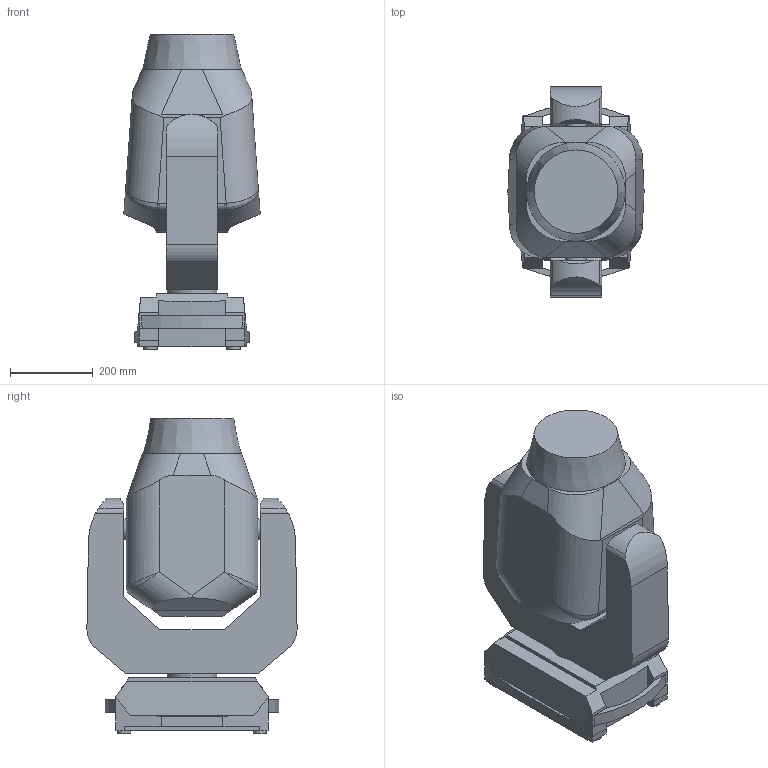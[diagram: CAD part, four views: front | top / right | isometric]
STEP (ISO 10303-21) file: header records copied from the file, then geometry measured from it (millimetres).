
FILE_DESCRIPTION(/* description */ ('Unknown'),/* implementation_level */ '2;1');
FILE_NAME(/* name */ '3D_iPointe_ZERO',/* time_stamp */ '2019-08-27T10:23:21+02:00',/* author */ ('Ing.Rostislav HĂˇba'),/* organization */ ('ROBE lighting'),/* preprocessor_version */ 'ST-DEVELOPER v16.7',/* originating_system */ 'DEX',/* authorisation */ $);
FILE_SCHEMA (('CONFIG_CONTROL_DESIGN'));
Length unit declared in the file: millimetre
Products named in the file (4): 3D_iPointe; Base iPointe; Arm iPointe; Head iPointe
Assembly tree (3 placements, depth 2):
  3D_iPointe
    Base iPointe
    Arm iPointe
    Head iPointe
Bounding box: 328.48 x 506.67 x 761.36 mm (x, y, z)
Volume: 59686930.9 mm3; surface area: 1459254.5 mm2
Topology: 3 solids, 3 shells, 143 faces, 381 edges, 250 vertices
Faces by surface type: plane 82, cylinder 52, bspline 8, cone 1
Full cylindrical faces by diameter (mm): 12 x4, 22 x1, 31.841 x4, 49.57 x2, 74 x1, 95 x1, 120.126 x1
Entity records: 4647 total; most frequent: CARTESIAN_POINT 1047, DIRECTION 744, ORIENTED_EDGE 708, EDGE_CURVE 354, AXIS2_PLACEMENT_3D 273, VERTEX_POINT 242, LINE 198, VECTOR 198
